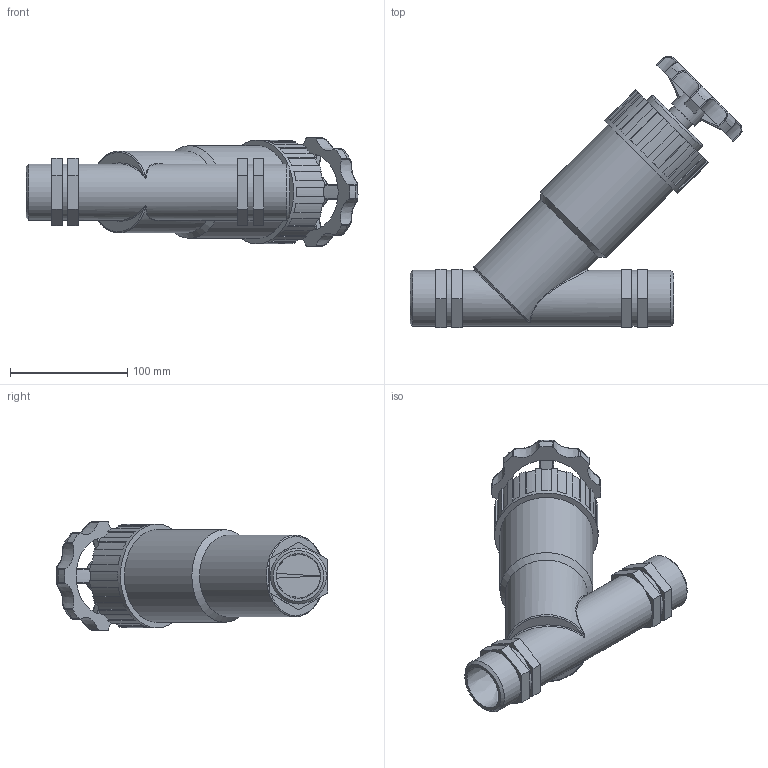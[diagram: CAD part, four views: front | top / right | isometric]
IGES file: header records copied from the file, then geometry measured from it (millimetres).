
Global section: file name: 03047188_030471880A_03049188.ipt; native system: Autodesk Inventor 2015; preprocessor: unknown; author: KIM; date: 20170619.121323; units: millimetre
Bounding box: 283.47 x 231.85 x 93.11 mm (x, y, z)
Volume: 1105035.2 mm3; surface area: 135639.7 mm2
Topology: 1 solids, 2 shells, 223 faces, 600 edges, 388 vertices
Faces by surface type: plane 110, cylinder 56, bspline 28, revolution 22, cone 7
Full cylindrical faces by diameter (mm): 22.356 x1, 27.945 x1, 47.803 x5, 61.479 x1, 69.862 x1, 79.177 x1, 88.493 x1
